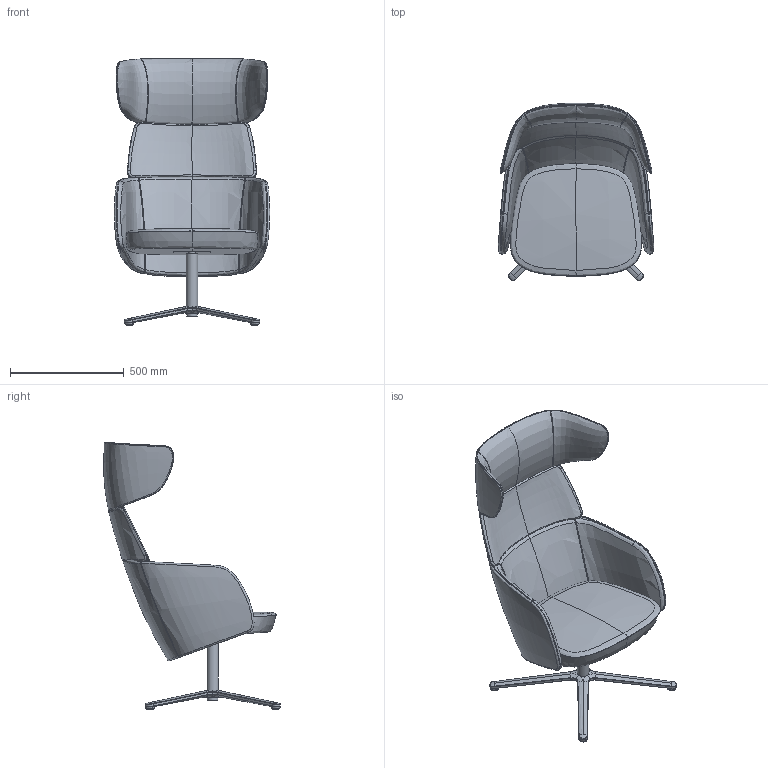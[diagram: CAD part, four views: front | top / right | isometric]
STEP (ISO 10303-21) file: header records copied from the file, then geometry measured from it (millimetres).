
FILE_DESCRIPTION(/* description */ (''),/* implementation_level */ '2;1');
FILE_NAME(/* name */ 'Winx WX 886-01',/* time_stamp */ '2020-04-03T22:32:20+02:00',/* author */ (''),/* organization */ (''),/* preprocessor_version */ 'ST-DEVELOPER v16.5',/* originating_system */ '',/* authorisation */ '');
FILE_SCHEMA (('AUTOMOTIVE_DESIGN'));
Length unit declared in the file: millimetre
Products named in the file (1): Document
Bounding box: 682.71 x 776.89 x 1174.96 mm (x, y, z)
Volume: 66551963 mm3; surface area: 2896565.4 mm2
Topology: 6 solids, 12 shells, 308 faces, 660 edges, 363 vertices
Faces by surface type: bspline 266, plane 42
Entity records: 32044 total; most frequent: CARTESIAN_POINT 28011, ORIENTED_EDGE 1284, EDGE_CURVE 649, B_SPLINE_CURVE_WITH_KNOTS 406, VERTEX_POINT 357, ADVANCED_FACE 308, FACE_OUTER_BOUND 308, EDGE_LOOP 308
